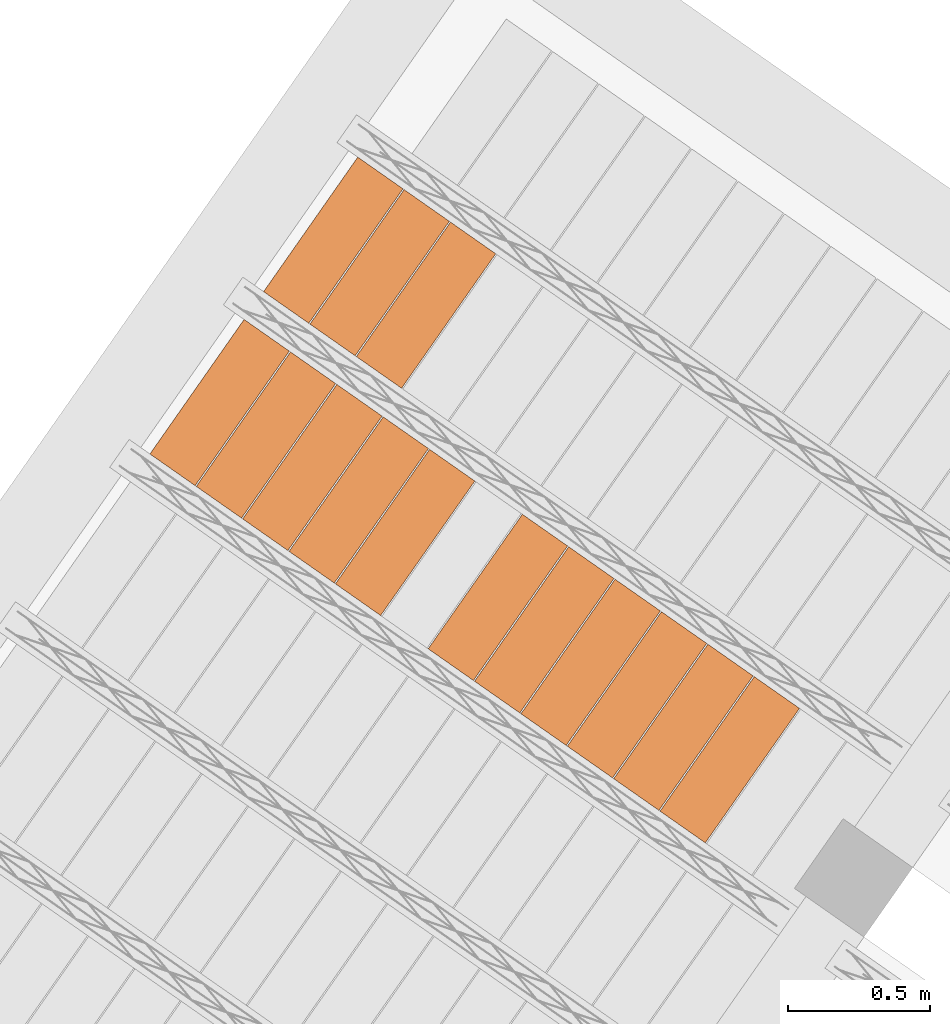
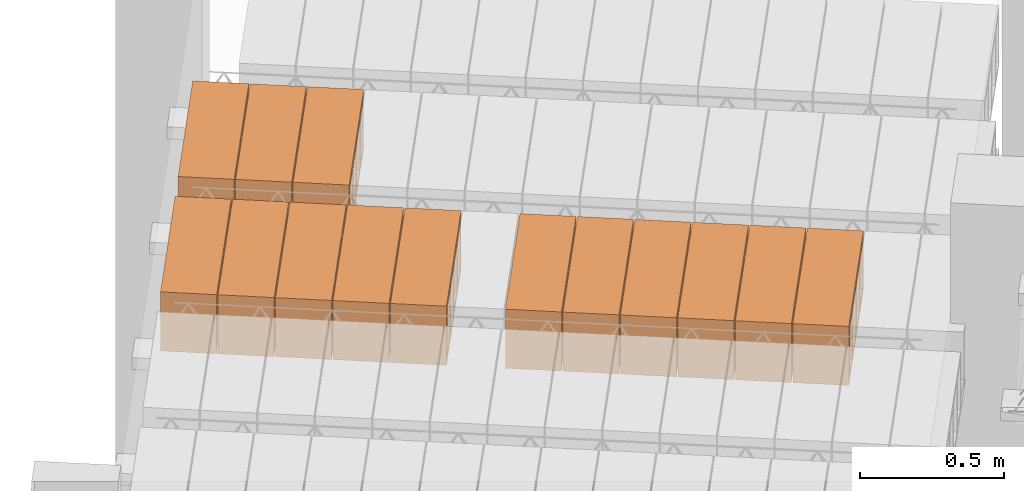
# One storey, part 72 of 80: 14 proxies.
"""IFC2X3 building model written with IfcOpenShell, lengths in metres."""

from ifc_helpers import new_model, entity, si_unit, converted_unit, derived_unit, direction, frame, origin, place, context, subcontext, project, spatial, polyline, outline, extrude, type_object, element, save


model = new_model("IFC2X3")

# Units and contexts
model_context = context("Model", 3, precision=1e-05, world=origin(), true_north=direction((6.123031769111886e-17, 1.0)))
body_context = subcontext(model_context, "Body", "Model", "MODEL_VIEW")
ifc_project = project(units=[si_unit("LENGTHUNIT", "METRE"), si_unit("AREAUNIT", "SQUARE_METRE"), si_unit("VOLUMEUNIT", "CUBIC_METRE"), converted_unit("PLANEANGLEUNIT", "DEGREE", entity("IfcPlaneAngleMeasure", 0.017453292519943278), si_unit("PLANEANGLEUNIT", "RADIAN"), dimensions=[0, 0, 0, 0, 0, 0, 0]), si_unit("MASSUNIT", "GRAM", prefix="KILO"), derived_unit("MASSDENSITYUNIT", [(si_unit("MASSUNIT", "GRAM", prefix="KILO"), 1), (si_unit("LENGTHUNIT", "METRE"), -3)]), derived_unit("IONCONCENTRATIONUNIT", [(si_unit("MASSUNIT", "GRAM", prefix="KILO"), 1), (si_unit("LENGTHUNIT", "METRE"), -3)]), derived_unit("MOMENTOFINERTIAUNIT", [(si_unit("LENGTHUNIT", "METRE"), 4)]), si_unit("TIMEUNIT", "SECOND"), si_unit("FREQUENCYUNIT", "HERTZ"), si_unit("THERMODYNAMICTEMPERATUREUNIT", "DEGREE_CELSIUS"), derived_unit("THERMALTRANSMITTANCEUNIT", [(si_unit("MASSUNIT", "GRAM", prefix="KILO"), 1), (si_unit("THERMODYNAMICTEMPERATUREUNIT", "KELVIN"), -1), (si_unit("TIMEUNIT", "SECOND"), -3)]), derived_unit("THERMALCONDUCTANCEUNIT", [(si_unit("MASSUNIT", "GRAM", prefix="KILO"), 1), (si_unit("THERMODYNAMICTEMPERATUREUNIT", "KELVIN"), -1), (si_unit("TIMEUNIT", "SECOND"), -3), (si_unit("LENGTHUNIT", "METRE"), 1)]), derived_unit("VOLUMETRICFLOWRATEUNIT", [(si_unit("LENGTHUNIT", "METRE", prefix="DECI"), 3), (si_unit("TIMEUNIT", "SECOND"), -1)]), derived_unit("MASSFLOWRATEUNIT", [(si_unit("MASSUNIT", "GRAM", prefix="KILO"), 1), (si_unit("TIMEUNIT", "SECOND"), -1)]), derived_unit("ROTATIONALFREQUENCYUNIT", [(si_unit("TIMEUNIT", "SECOND"), -1)]), si_unit("ELECTRICCURRENTUNIT", "AMPERE"), si_unit("ELECTRICVOLTAGEUNIT", "VOLT"), si_unit("POWERUNIT", "WATT"), si_unit("FORCEUNIT", "NEWTON", prefix="KILO"), si_unit("ILLUMINANCEUNIT", "LUX"), si_unit("LUMINOUSFLUXUNIT", "LUMEN"), si_unit("LUMINOUSINTENSITYUNIT", "CANDELA"), si_unit("ENERGYUNIT", "JOULE"), derived_unit("USERDEFINED", [(si_unit("MASSUNIT", "GRAM", prefix="KILO"), -1), (si_unit("LENGTHUNIT", "METRE"), -2), (si_unit("TIMEUNIT", "SECOND"), 3), (si_unit("LUMINOUSFLUXUNIT", "LUMEN"), 1)]), derived_unit("USERDEFINED", [(si_unit("MASSUNIT", "GRAM", prefix="KILO"), 1), (si_unit("TIMEUNIT", "SECOND"), -3), (si_unit("LENGTHUNIT", "METRE"), 3), (si_unit("ELECTRICCURRENTUNIT", "AMPERE"), -2)]), derived_unit("SOUNDPOWERUNIT", [(si_unit("MASSUNIT", "GRAM", prefix="KILO"), 1), (si_unit("TIMEUNIT", "SECOND"), -3), (si_unit("LENGTHUNIT", "METRE"), 2)]), derived_unit("SOUNDPRESSUREUNIT", [(si_unit("MASSUNIT", "GRAM", prefix="KILO"), 1), (si_unit("LENGTHUNIT", "METRE"), -1), (si_unit("TIMEUNIT", "SECOND"), -2)]), derived_unit("LINEARVELOCITYUNIT", [(si_unit("LENGTHUNIT", "METRE"), 1), (si_unit("TIMEUNIT", "SECOND"), -1)]), si_unit("PRESSUREUNIT", "PASCAL"), derived_unit("USERDEFINED", [(si_unit("MASSUNIT", "GRAM", prefix="KILO"), 1), (si_unit("LENGTHUNIT", "METRE"), -2), (si_unit("TIMEUNIT", "SECOND"), -2)]), derived_unit("LINEARFORCEUNIT", [(si_unit("MASSUNIT", "GRAM", prefix="KILO"), 1), (si_unit("TIMEUNIT", "SECOND"), -2)]), derived_unit("PLANARFORCEUNIT", [(si_unit("MASSUNIT", "GRAM", prefix="KILO"), 1), (si_unit("LENGTHUNIT", "METRE"), -1), (si_unit("TIMEUNIT", "SECOND"), -2)]), derived_unit("SPECIFICHEATCAPACITYUNIT", [(si_unit("THERMODYNAMICTEMPERATUREUNIT", "KELVIN"), -1), (si_unit("LENGTHUNIT", "METRE"), 2), (si_unit("TIMEUNIT", "SECOND"), -2)]), derived_unit("HEATFLUXDENSITYUNIT", [(si_unit("MASSUNIT", "GRAM", prefix="KILO"), 1), (si_unit("TIMEUNIT", "SECOND"), -3)]), derived_unit("HEATINGVALUEUNIT", [(si_unit("LENGTHUNIT", "METRE"), 2), (si_unit("TIMEUNIT", "SECOND"), -2)]), derived_unit("VAPORPERMEABILITYUNIT", [(si_unit("LENGTHUNIT", "METRE"), -1), (si_unit("TIMEUNIT", "SECOND"), 1)]), derived_unit("DYNAMICVISCOSITYUNIT", [(si_unit("MASSUNIT", "GRAM", prefix="KILO"), 1), (si_unit("TIMEUNIT", "SECOND"), -1), (si_unit("LENGTHUNIT", "METRE"), -1)]), derived_unit("THERMALEXPANSIONCOEFFICIENTUNIT", [(si_unit("THERMODYNAMICTEMPERATUREUNIT", "KELVIN"), -1)]), derived_unit("MODULUSOFELASTICITYUNIT", [(si_unit("MASSUNIT", "GRAM", prefix="KILO"), 1), (si_unit("LENGTHUNIT", "METRE"), -1), (si_unit("TIMEUNIT", "SECOND"), -2)]), derived_unit("ISOTHERMALMOISTURECAPACITYUNIT", [(si_unit("MASSUNIT", "GRAM", prefix="KILO"), -1), (si_unit("LENGTHUNIT", "METRE"), 3)]), derived_unit("MOISTUREDIFFUSIVITYUNIT", [(si_unit("TIMEUNIT", "SECOND"), -1), (si_unit("LENGTHUNIT", "METRE"), 2)]), derived_unit("MASSPERLENGTHUNIT", [(si_unit("MASSUNIT", "GRAM", prefix="KILO"), 1), (si_unit("LENGTHUNIT", "METRE"), -1)]), derived_unit("THERMALRESISTANCEUNIT", [(si_unit("MASSUNIT", "GRAM", prefix="KILO"), -1), (si_unit("TIMEUNIT", "SECOND"), 3), (si_unit("THERMODYNAMICTEMPERATUREUNIT", "KELVIN"), 1)]), derived_unit("ACCELERATIONUNIT", [(si_unit("LENGTHUNIT", "METRE"), 1), (si_unit("TIMEUNIT", "SECOND"), -2)]), derived_unit("ANGULARVELOCITYUNIT", [(si_unit("TIMEUNIT", "SECOND"), -1), (si_unit("PLANEANGLEUNIT", "RADIAN"), 1)]), derived_unit("LINEARSTIFFNESSUNIT", [(si_unit("MASSUNIT", "GRAM", prefix="KILO"), 1), (si_unit("TIMEUNIT", "SECOND"), -2)]), derived_unit("WARPINGCONSTANTUNIT", [(si_unit("LENGTHUNIT", "METRE"), 6)]), derived_unit("LINEARMOMENTUNIT", [(si_unit("MASSUNIT", "GRAM", prefix="KILO"), 1), (si_unit("LENGTHUNIT", "METRE"), 1), (si_unit("TIMEUNIT", "SECOND"), -2)]), derived_unit("TORQUEUNIT", [(si_unit("MASSUNIT", "GRAM", prefix="KILO"), 1), (si_unit("LENGTHUNIT", "METRE"), 2), (si_unit("TIMEUNIT", "SECOND"), -2)])], contexts=[model_context])

# Site, building, storey
site_placement = place(None, origin())
site = spatial("IfcSite", under=ifc_project, at=site_placement, Name="Default", CompositionType="ELEMENT")
building_placement = place(site_placement, origin())
building = spatial("IfcBuilding", under=site, at=building_placement, CompositionType="ELEMENT")
storey_placement = place(building_placement, frame((0.0, 0.0, 95.94)))
storey = spatial("IfcBuildingStorey", under=building, at=storey_placement, Name="PB", CompositionType="ELEMENT", Elevation=95.94)

# Proxies
building_element_proxy_type_1 = type_object("IfcBuildingElementProxyType", Name="Bovedilla 12-3 (Paño 2)", PredefinedType="USERDEFINED")
proxy_1_placement = place(storey_placement, origin())
element("IfcBuildingElementProxy", 1, at=proxy_1_placement, inside=storey, type_object=building_element_proxy_type_1, Name="Bovedilla 12-3 (Paño 2)", ObjectType="FORM", context=body_context, shape_type="SweptSolid", body=[
    extrude(outline(polyline([(-0.28999999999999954, -0.12500000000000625), (0.28999999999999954, -0.12500000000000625), (0.28999999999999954, 0.12500000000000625), (-0.28999999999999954, 0.12500000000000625), (-0.28999999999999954, -0.12500000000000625)]), holes=[polyline([(0.26999999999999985, -0.10499999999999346), (0.15500000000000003, -0.10499999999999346), (0.15500000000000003, 0.10499999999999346), (0.26999999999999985, 0.10499999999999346), (0.26999999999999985, 0.042499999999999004), (0.26999999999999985, -0.10499999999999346)]), polyline([(0.009999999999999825, -0.10499999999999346), (0.009999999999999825, 0.10499999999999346), (0.1350000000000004, 0.10499999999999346), (0.1350000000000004, -0.10499999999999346), (0.009999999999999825, -0.10499999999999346)]), polyline([(-0.1350000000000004, 0.10499999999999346), (-0.009999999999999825, 0.10499999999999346), (-0.009999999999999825, -0.10499999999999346), (-0.1350000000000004, -0.10499999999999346), (-0.1350000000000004, 0.10499999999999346)]), polyline([(-0.26999999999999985, -0.10499999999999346), (-0.26999999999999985, 0.042499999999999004), (-0.26999999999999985, 0.10499999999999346), (-0.15500000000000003, 0.10499999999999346), (-0.15500000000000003, -0.10499999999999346), (-0.26999999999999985, -0.10499999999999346)])]), frame((5.3127048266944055, 7.999784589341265, 2.945000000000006), z_axis=(0.8191520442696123, -0.5735764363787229, 0.0), x_axis=(-0.5735764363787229, -0.8191520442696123, 0.0)), (0.0, 0.0, 1.0), 0.19499999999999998),
])
building_element_proxy_type_2 = type_object("IfcBuildingElementProxyType", Name="Bovedilla 12-4 (Paño 2)", PredefinedType="USERDEFINED")
proxy_2_placement = place(storey_placement, origin())
element("IfcBuildingElementProxy", 2, at=proxy_2_placement, inside=storey, type_object=building_element_proxy_type_2, Name="Bovedilla 12-4 (Paño 2)", ObjectType="FORM", context=body_context, shape_type="SweptSolid", body=[
    extrude(outline(polyline([(-0.28999999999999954, -0.12500000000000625), (0.28999999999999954, -0.12500000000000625), (0.28999999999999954, 0.12500000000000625), (-0.28999999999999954, 0.12500000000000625), (-0.28999999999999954, -0.12500000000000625)]), holes=[polyline([(0.26999999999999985, -0.10499999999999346), (0.15500000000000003, -0.10499999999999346), (0.15500000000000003, 0.10499999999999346), (0.26999999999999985, 0.10499999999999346), (0.26999999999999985, 0.042499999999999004), (0.26999999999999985, -0.10499999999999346)]), polyline([(0.009999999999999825, -0.10499999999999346), (0.009999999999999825, 0.10499999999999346), (0.1350000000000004, 0.10499999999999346), (0.1350000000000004, -0.10499999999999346), (0.009999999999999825, -0.10499999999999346)]), polyline([(-0.1350000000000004, 0.10499999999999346), (-0.009999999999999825, 0.10499999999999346), (-0.009999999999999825, -0.10499999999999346), (-0.1350000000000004, -0.10499999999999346), (-0.1350000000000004, 0.10499999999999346)]), polyline([(-0.26999999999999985, -0.10499999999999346), (-0.26999999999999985, 0.042499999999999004), (-0.26999999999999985, 0.10499999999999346), (-0.15500000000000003, 0.10499999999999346), (-0.15500000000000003, -0.10499999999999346), (-0.26999999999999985, -0.10499999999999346)])]), frame((5.1488744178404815, 8.114499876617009, 2.945000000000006), z_axis=(0.8191520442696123, -0.5735764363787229, 0.0), x_axis=(-0.5735764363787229, -0.8191520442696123, 0.0)), (0.0, 0.0, 1.0), 0.19499999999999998),
])
building_element_proxy_type_3 = type_object("IfcBuildingElementProxyType", Name="Bovedilla 12-5 (Paño 2)", PredefinedType="USERDEFINED")
proxy_3_placement = place(storey_placement, origin())
element("IfcBuildingElementProxy", 3, at=proxy_3_placement, inside=storey, type_object=building_element_proxy_type_3, Name="Bovedilla 12-5 (Paño 2)", ObjectType="FORM", context=body_context, shape_type="SweptSolid", body=[
    extrude(outline(polyline([(-0.28999999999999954, -0.12500000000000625), (0.28999999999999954, -0.12500000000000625), (0.28999999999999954, 0.12500000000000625), (-0.28999999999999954, 0.12500000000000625), (-0.28999999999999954, -0.12500000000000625)]), holes=[polyline([(0.2699999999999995, -0.10499999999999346), (0.15500000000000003, -0.10499999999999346), (0.15500000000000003, 0.10499999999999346), (0.2699999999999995, 0.10499999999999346), (0.2699999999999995, 0.042499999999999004), (0.2699999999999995, -0.10499999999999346)]), polyline([(0.009999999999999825, -0.10499999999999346), (0.009999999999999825, 0.10499999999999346), (0.1350000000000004, 0.10499999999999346), (0.1350000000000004, -0.10499999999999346), (0.009999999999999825, -0.10499999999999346)]), polyline([(-0.1350000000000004, 0.10499999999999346), (-0.009999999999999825, 0.10499999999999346), (-0.009999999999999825, -0.10499999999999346), (-0.1350000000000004, -0.10499999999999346), (-0.1350000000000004, 0.10499999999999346)]), polyline([(-0.26999999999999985, -0.10499999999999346), (-0.26999999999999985, 0.042499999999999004), (-0.26999999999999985, 0.10499999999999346), (-0.15500000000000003, 0.10499999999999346), (-0.15500000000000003, -0.10499999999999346), (-0.26999999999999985, -0.10499999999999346)])]), frame((4.98504400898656, 8.229215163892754, 2.945000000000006), z_axis=(0.8191520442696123, -0.5735764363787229, 0.0), x_axis=(-0.5735764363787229, -0.8191520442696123, 0.0)), (0.0, 0.0, 1.0), 0.19499999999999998),
])
building_element_proxy_type_4 = type_object("IfcBuildingElementProxyType", Name="Bovedilla 12-6 (Paño 2)", PredefinedType="USERDEFINED")
proxy_4_placement = place(storey_placement, origin())
element("IfcBuildingElementProxy", 4, at=proxy_4_placement, inside=storey, type_object=building_element_proxy_type_4, Name="Bovedilla 12-6 (Paño 2)", ObjectType="FORM", context=body_context, shape_type="SweptSolid", body=[
    extrude(outline(polyline([(-0.28999999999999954, -0.12500000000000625), (0.28999999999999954, -0.12500000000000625), (0.28999999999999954, 0.12500000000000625), (-0.28999999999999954, 0.12500000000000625), (-0.28999999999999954, -0.12500000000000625)]), holes=[polyline([(0.2699999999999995, -0.10499999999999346), (0.15500000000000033, -0.10499999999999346), (0.15500000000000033, 0.10499999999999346), (0.2699999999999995, 0.10499999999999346), (0.2699999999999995, 0.042499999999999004), (0.2699999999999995, -0.10499999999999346)]), polyline([(0.009999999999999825, -0.10499999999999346), (0.009999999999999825, 0.10499999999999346), (0.1350000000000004, 0.10499999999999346), (0.1350000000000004, -0.10499999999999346), (0.009999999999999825, -0.10499999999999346)]), polyline([(-0.1350000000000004, 0.10499999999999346), (-0.009999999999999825, 0.10499999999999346), (-0.009999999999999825, -0.10499999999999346), (-0.1350000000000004, -0.10499999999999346), (-0.1350000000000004, 0.10499999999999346)]), polyline([(-0.26999999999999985, -0.10499999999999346), (-0.26999999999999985, 0.042499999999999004), (-0.26999999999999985, 0.10499999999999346), (-0.15500000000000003, 0.10499999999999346), (-0.15500000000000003, -0.10499999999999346), (-0.26999999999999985, -0.10499999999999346)])]), frame((4.821213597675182, 8.343930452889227, 2.945000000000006), z_axis=(0.8191520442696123, -0.5735764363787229, 0.0), x_axis=(-0.5735764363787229, -0.8191520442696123, 0.0)), (0.0, 0.0, 1.0), 0.19499999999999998),
])
building_element_proxy_type_5 = type_object("IfcBuildingElementProxyType", Name="Bovedilla 12-7 (Paño 2)", PredefinedType="USERDEFINED")
proxy_5_placement = place(storey_placement, origin())
element("IfcBuildingElementProxy", 5, at=proxy_5_placement, inside=storey, type_object=building_element_proxy_type_5, Name="Bovedilla 12-7 (Paño 2)", ObjectType="FORM", context=body_context, shape_type="SweptSolid", body=[
    extrude(outline(polyline([(-0.28999999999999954, -0.12500000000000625), (0.28999999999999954, -0.12500000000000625), (0.28999999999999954, 0.12500000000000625), (-0.28999999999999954, 0.12500000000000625), (-0.28999999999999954, -0.12500000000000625)]), holes=[polyline([(0.2699999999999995, -0.10499999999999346), (0.15500000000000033, -0.10499999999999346), (0.15500000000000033, 0.10499999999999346), (0.2699999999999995, 0.10499999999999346), (0.2699999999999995, 0.042499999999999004), (0.2699999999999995, -0.10499999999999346)]), polyline([(0.009999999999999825, -0.10499999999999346), (0.009999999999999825, 0.10499999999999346), (0.1350000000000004, 0.10499999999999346), (0.1350000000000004, -0.10499999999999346), (0.009999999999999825, -0.10499999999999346)]), polyline([(-0.1350000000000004, 0.10499999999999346), (-0.009999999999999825, 0.10499999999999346), (-0.009999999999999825, -0.10499999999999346), (-0.1350000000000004, -0.10499999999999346), (-0.1350000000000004, 0.10499999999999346)]), polyline([(-0.2699999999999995, -0.10499999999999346), (-0.2699999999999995, 0.042499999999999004), (-0.2699999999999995, 0.10499999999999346), (-0.15500000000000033, 0.10499999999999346), (-0.15500000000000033, -0.10499999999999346), (-0.2699999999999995, -0.10499999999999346)])]), frame((4.657383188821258, 8.458645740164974, 2.945000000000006), z_axis=(0.8191520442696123, -0.5735764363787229, 0.0), x_axis=(-0.5735764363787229, -0.8191520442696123, 0.0)), (0.0, 0.0, 1.0), 0.19499999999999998),
])
building_element_proxy_type_6 = type_object("IfcBuildingElementProxyType", Name="Bovedilla 12-8 (Paño 2)", PredefinedType="USERDEFINED")
proxy_6_placement = place(storey_placement, origin())
element("IfcBuildingElementProxy", 6, at=proxy_6_placement, inside=storey, type_object=building_element_proxy_type_6, Name="Bovedilla 12-8 (Paño 2)", ObjectType="FORM", context=body_context, shape_type="SweptSolid", body=[
    extrude(outline(polyline([(-0.28999999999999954, -0.12500000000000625), (0.28999999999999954, -0.12500000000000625), (0.28999999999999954, 0.12500000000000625), (-0.28999999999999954, 0.12500000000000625), (-0.28999999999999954, -0.12500000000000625)]), holes=[polyline([(0.2699999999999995, -0.10499999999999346), (0.15500000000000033, -0.10499999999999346), (0.15500000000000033, 0.10499999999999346), (0.2699999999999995, 0.10499999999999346), (0.2699999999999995, 0.042499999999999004), (0.2699999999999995, -0.10499999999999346)]), polyline([(0.009999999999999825, -0.10499999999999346), (0.009999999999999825, 0.10499999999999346), (0.1350000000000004, 0.10499999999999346), (0.1350000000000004, -0.10499999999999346), (0.009999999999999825, -0.10499999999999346)]), polyline([(-0.1350000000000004, 0.10499999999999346), (-0.009999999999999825, 0.10499999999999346), (-0.009999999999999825, -0.10499999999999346), (-0.1350000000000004, -0.10499999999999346), (-0.1350000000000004, 0.10499999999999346)]), polyline([(-0.2699999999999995, -0.10499999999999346), (-0.2699999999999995, 0.042499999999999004), (-0.2699999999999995, 0.10499999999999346), (-0.15500000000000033, 0.10499999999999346), (-0.15500000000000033, -0.10499999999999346), (-0.2699999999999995, -0.10499999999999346)])]), frame((4.493552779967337, 8.573361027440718, 2.945000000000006), z_axis=(0.8191520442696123, -0.5735764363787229, 0.0), x_axis=(-0.5735764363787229, -0.8191520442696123, 0.0)), (0.0, 0.0, 1.0), 0.19499999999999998),
])
building_element_proxy_type_7 = type_object("IfcBuildingElementProxyType", Name="Bovedilla 12-10 (Paño 2)", PredefinedType="USERDEFINED")
proxy_7_placement = place(storey_placement, origin())
element("IfcBuildingElementProxy", 7, at=proxy_7_placement, inside=storey, type_object=building_element_proxy_type_7, Name="Bovedilla 12-10 (Paño 2)", ObjectType="FORM", context=body_context, shape_type="SweptSolid", body=[
    extrude(outline(polyline([(-0.28999999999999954, -0.12500000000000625), (0.28999999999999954, -0.12500000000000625), (0.28999999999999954, 0.12500000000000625), (-0.28999999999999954, 0.12500000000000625), (-0.28999999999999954, -0.12500000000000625)]), holes=[polyline([(0.2699999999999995, -0.10499999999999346), (0.15500000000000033, -0.10499999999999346), (0.15500000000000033, 0.10499999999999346), (0.2699999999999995, 0.10499999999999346), (0.2699999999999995, 0.042499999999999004), (0.2699999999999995, -0.10499999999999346)]), polyline([(0.009999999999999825, -0.10499999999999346), (0.009999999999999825, 0.10499999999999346), (0.1350000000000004, 0.10499999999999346), (0.1350000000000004, -0.10499999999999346), (0.009999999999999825, -0.10499999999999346)]), polyline([(-0.1350000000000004, 0.10499999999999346), (-0.009999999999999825, 0.10499999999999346), (-0.009999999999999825, -0.10499999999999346), (-0.1350000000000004, -0.10499999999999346), (-0.1350000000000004, 0.10499999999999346)]), polyline([(-0.2699999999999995, -0.10499999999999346), (-0.2699999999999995, 0.042499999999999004), (-0.2699999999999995, 0.10499999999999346), (-0.15500000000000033, 0.10499999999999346), (-0.15500000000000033, -0.10499999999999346), (-0.2699999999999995, -0.10499999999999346)])]), frame((4.16589196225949, 8.802791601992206, 2.945000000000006), z_axis=(0.8191520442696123, -0.5735764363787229, 0.0), x_axis=(-0.5735764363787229, -0.8191520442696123, 0.0)), (0.0, 0.0, 1.0), 0.19499999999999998),
])
building_element_proxy_type_8 = type_object("IfcBuildingElementProxyType", Name="Bovedilla 12-11 (Paño 2)", PredefinedType="USERDEFINED")
proxy_8_placement = place(storey_placement, origin())
element("IfcBuildingElementProxy", 8, at=proxy_8_placement, inside=storey, type_object=building_element_proxy_type_8, Name="Bovedilla 12-11 (Paño 2)", ObjectType="FORM", context=body_context, shape_type="SweptSolid", body=[
    extrude(outline(polyline([(-0.28999999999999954, -0.12500000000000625), (0.28999999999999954, -0.12500000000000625), (0.28999999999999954, 0.12500000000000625), (-0.28999999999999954, 0.12500000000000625), (-0.28999999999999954, -0.12500000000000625)]), holes=[polyline([(0.2699999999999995, -0.10499999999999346), (0.15500000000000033, -0.10499999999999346), (0.15500000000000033, 0.10499999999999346), (0.2699999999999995, 0.10499999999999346), (0.2699999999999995, 0.042499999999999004), (0.2699999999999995, -0.10499999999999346)]), polyline([(0.009999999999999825, -0.10499999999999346), (0.009999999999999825, 0.10499999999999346), (0.1350000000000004, 0.10499999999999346), (0.1350000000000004, -0.10499999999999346), (0.009999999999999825, -0.10499999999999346)]), polyline([(-0.1350000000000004, 0.10499999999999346), (-0.009999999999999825, 0.10499999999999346), (-0.009999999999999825, -0.10499999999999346), (-0.1350000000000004, -0.10499999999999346), (-0.1350000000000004, 0.10499999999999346)]), polyline([(-0.2699999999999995, -0.10499999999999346), (-0.2699999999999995, 0.042499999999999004), (-0.2699999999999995, 0.10499999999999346), (-0.15500000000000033, 0.10499999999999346), (-0.15500000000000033, -0.10499999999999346), (-0.2699999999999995, -0.10499999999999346)])]), frame((4.00206155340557, 8.917506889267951, 2.945000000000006), z_axis=(0.8191520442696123, -0.5735764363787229, 0.0), x_axis=(-0.5735764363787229, -0.8191520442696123, 0.0)), (0.0, 0.0, 1.0), 0.19499999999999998),
])
building_element_proxy_type_9 = type_object("IfcBuildingElementProxyType", Name="Bovedilla 12-12 (Paño 2)", PredefinedType="USERDEFINED")
proxy_9_placement = place(storey_placement, origin())
element("IfcBuildingElementProxy", 9, at=proxy_9_placement, inside=storey, type_object=building_element_proxy_type_9, Name="Bovedilla 12-12 (Paño 2)", ObjectType="FORM", context=body_context, shape_type="SweptSolid", body=[
    extrude(outline(polyline([(-0.28999999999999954, -0.12500000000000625), (0.28999999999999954, -0.12500000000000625), (0.28999999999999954, 0.12500000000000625), (-0.28999999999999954, 0.12500000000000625), (-0.28999999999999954, -0.12500000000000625)]), holes=[polyline([(0.2699999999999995, -0.10499999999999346), (0.15500000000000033, -0.10499999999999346), (0.15500000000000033, 0.10499999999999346), (0.2699999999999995, 0.10499999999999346), (0.2699999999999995, 0.042499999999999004), (0.2699999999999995, -0.10499999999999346)]), polyline([(0.009999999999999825, -0.10499999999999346), (0.009999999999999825, 0.10499999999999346), (0.1350000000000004, 0.10499999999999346), (0.1350000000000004, -0.10499999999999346), (0.009999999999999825, -0.10499999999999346)]), polyline([(-0.1350000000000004, 0.10499999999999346), (-0.009999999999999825, 0.10499999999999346), (-0.009999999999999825, -0.10499999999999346), (-0.1350000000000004, -0.10499999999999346), (-0.1350000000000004, 0.10499999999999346)]), polyline([(-0.2699999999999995, -0.10499999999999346), (-0.2699999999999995, 0.042499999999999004), (-0.2699999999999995, 0.10499999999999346), (-0.15500000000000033, 0.10499999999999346), (-0.15500000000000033, -0.10499999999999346), (-0.2699999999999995, -0.10499999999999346)])]), frame((3.8382311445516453, 9.032222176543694, 2.945000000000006), z_axis=(0.8191520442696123, -0.5735764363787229, 0.0), x_axis=(-0.5735764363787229, -0.8191520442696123, 0.0)), (0.0, 0.0, 1.0), 0.19499999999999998),
])
building_element_proxy_type_10 = type_object("IfcBuildingElementProxyType", Name="Bovedilla 12-13 (Paño 2)", PredefinedType="USERDEFINED")
proxy_10_placement = place(storey_placement, origin())
element("IfcBuildingElementProxy", 10, at=proxy_10_placement, inside=storey, type_object=building_element_proxy_type_10, Name="Bovedilla 12-13 (Paño 2)", ObjectType="FORM", context=body_context, shape_type="SweptSolid", body=[
    extrude(outline(polyline([(-0.28999999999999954, -0.12500000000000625), (0.28999999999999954, -0.12500000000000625), (0.28999999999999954, 0.12500000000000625), (-0.28999999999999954, 0.12500000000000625), (-0.28999999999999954, -0.12500000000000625)]), holes=[polyline([(0.2699999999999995, -0.10499999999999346), (0.15500000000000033, -0.10499999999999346), (0.15500000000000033, 0.10499999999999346), (0.2699999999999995, 0.10499999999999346), (0.2699999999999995, 0.042499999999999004), (0.2699999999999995, -0.10499999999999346)]), polyline([(0.009999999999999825, -0.10499999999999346), (0.009999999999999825, 0.10499999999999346), (0.1350000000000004, 0.10499999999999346), (0.1350000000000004, -0.10499999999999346), (0.009999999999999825, -0.10499999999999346)]), polyline([(-0.1350000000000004, 0.10499999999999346), (-0.009999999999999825, 0.10499999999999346), (-0.009999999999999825, -0.10499999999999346), (-0.1350000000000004, -0.10499999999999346), (-0.1350000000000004, 0.10499999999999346)]), polyline([(-0.2699999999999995, -0.10499999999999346), (-0.2699999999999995, 0.042499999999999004), (-0.2699999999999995, 0.10499999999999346), (-0.15500000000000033, 0.10499999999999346), (-0.15500000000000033, -0.10499999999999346), (-0.2699999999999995, -0.10499999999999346)])]), frame((3.674400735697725, 9.14693746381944, 2.945000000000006), z_axis=(0.8191520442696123, -0.5735764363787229, 0.0), x_axis=(-0.5735764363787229, -0.8191520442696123, 0.0)), (0.0, 0.0, 1.0), 0.19499999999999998),
])
building_element_proxy_type_11 = type_object("IfcBuildingElementProxyType", Name="Bovedilla 12-14 (Paño 2)", PredefinedType="USERDEFINED")
proxy_11_placement = place(storey_placement, origin())
element("IfcBuildingElementProxy", 11, at=proxy_11_placement, inside=storey, type_object=building_element_proxy_type_11, Name="Bovedilla 12-14 (Paño 2)", ObjectType="FORM", context=body_context, shape_type="SweptSolid", body=[
    extrude(outline(polyline([(-0.28999999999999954, -0.12500000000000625), (0.28999999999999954, -0.12500000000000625), (0.28999999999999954, 0.12500000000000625), (-0.28999999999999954, 0.12500000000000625), (-0.28999999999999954, -0.12500000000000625)]), holes=[polyline([(0.2699999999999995, -0.10499999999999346), (0.15500000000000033, -0.10499999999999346), (0.15500000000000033, 0.10499999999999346), (0.2699999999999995, 0.10499999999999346), (0.2699999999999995, 0.042499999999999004), (0.2699999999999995, -0.10499999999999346)]), polyline([(0.009999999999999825, -0.10499999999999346), (0.009999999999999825, 0.10499999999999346), (0.1350000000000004, 0.10499999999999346), (0.1350000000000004, -0.10499999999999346), (0.009999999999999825, -0.10499999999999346)]), polyline([(-0.1350000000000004, 0.10499999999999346), (-0.009999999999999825, 0.10499999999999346), (-0.009999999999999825, -0.10499999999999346), (-0.1350000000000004, -0.10499999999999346), (-0.1350000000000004, 0.10499999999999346)]), polyline([(-0.2699999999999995, -0.10499999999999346), (-0.2699999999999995, 0.042499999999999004), (-0.2699999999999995, 0.10499999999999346), (-0.15500000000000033, 0.10499999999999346), (-0.15500000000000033, -0.10499999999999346), (-0.2699999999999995, -0.10499999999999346)])]), frame((3.510570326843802, 9.261652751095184, 2.945000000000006), z_axis=(0.8191520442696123, -0.5735764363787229, 0.0), x_axis=(-0.5735764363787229, -0.8191520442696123, 0.0)), (0.0, 0.0, 1.0), 0.19499999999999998),
])
building_element_proxy_type_12 = type_object("IfcBuildingElementProxyType", Name="Bovedilla 13-12 (Paño 2)", PredefinedType="USERDEFINED")
proxy_12_placement = place(storey_placement, origin())
element("IfcBuildingElementProxy", 12, at=proxy_12_placement, inside=storey, type_object=building_element_proxy_type_12, Name="Bovedilla 13-12 (Paño 2)", ObjectType="FORM", context=body_context, shape_type="SweptSolid", body=[
    extrude(outline(polyline([(-0.29000000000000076, -0.12500000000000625), (0.2899999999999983, -0.12500000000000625), (0.2899999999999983, 0.12500000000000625), (-0.29000000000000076, 0.12500000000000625), (-0.29000000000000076, -0.12500000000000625)]), holes=[polyline([(0.2699999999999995, -0.10499999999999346), (0.15499999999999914, -0.10499999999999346), (0.15499999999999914, 0.10499999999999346), (0.2699999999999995, 0.10499999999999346), (0.2699999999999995, 0.042499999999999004), (0.2699999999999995, -0.10499999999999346)]), polyline([(0.009999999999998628, -0.10499999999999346), (0.009999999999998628, 0.10499999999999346), (0.1349999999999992, 0.10499999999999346), (0.1349999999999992, -0.10499999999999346), (0.009999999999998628, -0.10499999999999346)]), polyline([(-0.1350000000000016, 0.10499999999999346), (-0.010000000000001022, 0.10499999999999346), (-0.010000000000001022, -0.10499999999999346), (-0.1350000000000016, -0.10499999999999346), (-0.1350000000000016, 0.10499999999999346)]), polyline([(-0.2700000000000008, -0.10499999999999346), (-0.2700000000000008, 0.042499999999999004), (-0.2700000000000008, 0.10499999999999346), (-0.15500000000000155, 0.10499999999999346), (-0.15500000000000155, -0.10499999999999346), (-0.2700000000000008, -0.10499999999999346)])]), frame((4.239734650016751, 9.605628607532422, 2.945000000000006), z_axis=(0.8191520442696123, -0.5735764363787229, 0.0), x_axis=(-0.5735764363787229, -0.8191520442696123, 0.0)), (0.0, 0.0, 1.0), 0.19499999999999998),
])
building_element_proxy_type_13 = type_object("IfcBuildingElementProxyType", Name="Bovedilla 13-13 (Paño 2)", PredefinedType="USERDEFINED")
proxy_13_placement = place(storey_placement, origin())
element("IfcBuildingElementProxy", 13, at=proxy_13_placement, inside=storey, type_object=building_element_proxy_type_13, Name="Bovedilla 13-13 (Paño 2)", ObjectType="FORM", context=body_context, shape_type="SweptSolid", body=[
    extrude(outline(polyline([(-0.2899999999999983, -0.12500000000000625), (0.29000000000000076, -0.12500000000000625), (0.29000000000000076, 0.12500000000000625), (-0.2899999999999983, 0.12500000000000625), (-0.2899999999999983, -0.12500000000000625)]), holes=[polyline([(0.2700000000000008, -0.10499999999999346), (0.15500000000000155, -0.10499999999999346), (0.15500000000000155, 0.10499999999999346), (0.2700000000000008, 0.10499999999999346), (0.2700000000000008, 0.042499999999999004), (0.2700000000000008, -0.10499999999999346)]), polyline([(0.010000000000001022, -0.10499999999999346), (0.010000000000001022, 0.10499999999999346), (0.1350000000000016, 0.10499999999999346), (0.1350000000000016, -0.10499999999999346), (0.010000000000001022, -0.10499999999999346)]), polyline([(-0.1349999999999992, 0.10499999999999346), (-0.009999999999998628, 0.10499999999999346), (-0.009999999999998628, -0.10499999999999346), (-0.1349999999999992, -0.10499999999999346), (-0.1349999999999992, 0.10499999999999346)]), polyline([(-0.26999999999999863, -0.10499999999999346), (-0.26999999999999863, 0.042499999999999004), (-0.26999999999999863, 0.10499999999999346), (-0.15499999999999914, 0.10499999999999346), (-0.15499999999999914, -0.10499999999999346), (-0.26999999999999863, -0.10499999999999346)])]), frame((4.075904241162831, 9.720343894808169, 2.945000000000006), z_axis=(0.8191520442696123, -0.5735764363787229, 0.0), x_axis=(-0.5735764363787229, -0.8191520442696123, 0.0)), (0.0, 0.0, 1.0), 0.19499999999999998),
])
building_element_proxy_type_14 = type_object("IfcBuildingElementProxyType", Name="Bovedilla 13-14 (Paño 2)", PredefinedType="USERDEFINED")
proxy_14_placement = place(storey_placement, origin())
element("IfcBuildingElementProxy", 14, at=proxy_14_placement, inside=storey, type_object=building_element_proxy_type_14, Name="Bovedilla 13-14 (Paño 2)", ObjectType="FORM", context=body_context, shape_type="SweptSolid", body=[
    extrude(outline(polyline([(-0.2900000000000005, -0.12500000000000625), (0.28999999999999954, -0.12500000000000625), (0.28999999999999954, 0.12500000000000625), (-0.2900000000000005, 0.12500000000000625), (-0.2900000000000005, -0.12500000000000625)]), holes=[polyline([(0.26999999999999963, -0.10499999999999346), (0.15500000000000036, -0.10499999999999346), (0.15500000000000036, 0.10499999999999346), (0.26999999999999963, 0.10499999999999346), (0.26999999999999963, 0.042499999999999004), (0.26999999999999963, -0.10499999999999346)]), polyline([(0.009999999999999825, -0.10499999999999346), (0.009999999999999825, 0.10499999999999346), (0.1350000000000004, 0.10499999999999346), (0.1350000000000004, -0.10499999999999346), (0.009999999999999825, -0.10499999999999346)]), polyline([(-0.1349999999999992, 0.10499999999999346), (-0.009999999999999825, 0.10499999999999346), (-0.009999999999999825, -0.10499999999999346), (-0.1349999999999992, -0.10499999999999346), (-0.1349999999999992, 0.10499999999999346)]), polyline([(-0.2700000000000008, -0.10499999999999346), (-0.2700000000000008, 0.042499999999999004), (-0.2700000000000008, 0.10499999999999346), (-0.15499999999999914, 0.10499999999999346), (-0.15499999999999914, -0.10499999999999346), (-0.2700000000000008, -0.10499999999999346)])]), frame((3.912073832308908, 9.835059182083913, 2.945000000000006), z_axis=(0.819152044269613, -0.5735764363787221, 0.0), x_axis=(-0.5735764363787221, -0.819152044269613, 0.0)), (0.0, 0.0, 1.0), 0.19499999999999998),
])

save(model, "model.ifc")
